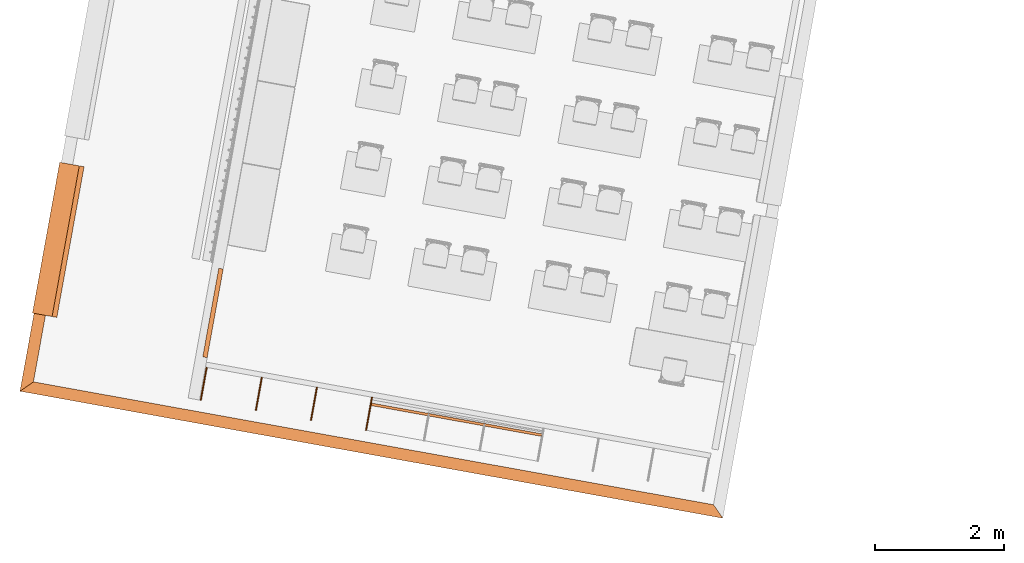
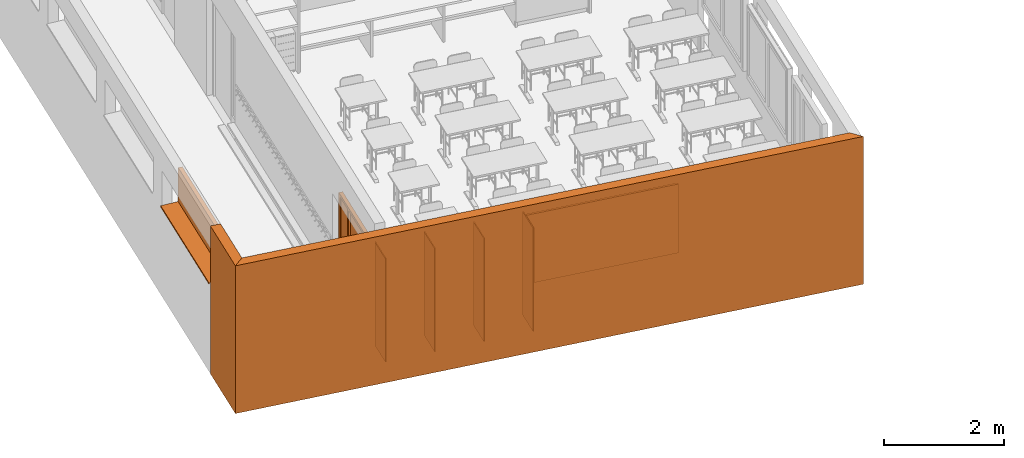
# One storey, part 21 of 79: 9 proxies.
"""IFC2X3 building model written with IfcOpenShell, lengths in metres."""

from ifc_helpers import new_model, entity, si_unit, converted_unit, derived_unit, money_unit, direction, frame, origin_with_axes, place, context, subcontext, project, spatial, polyline, outline, extrude, open_shell, faceted_brep, surface_model, source, transform, mapped, material, type_object, element, save


model = new_model("IFC2X3")

# Units and contexts
model_context = context("Model", 3, precision=1e-05, world=origin_with_axes(), true_north=direction((0.0, 1.0)))
body_context = subcontext(model_context, "Body", "Model", "MODEL_VIEW")
ifc_project = project(units=[si_unit("LENGTHUNIT", "METRE"), si_unit("AREAUNIT", "SQUARE_METRE"), si_unit("VOLUMEUNIT", "CUBIC_METRE"), converted_unit("PLANEANGLEUNIT", "DEGREE", entity("IfcPlaneAngleMeasure", 0.0174532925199), si_unit("PLANEANGLEUNIT", "RADIAN"), dimensions=[0, 0, 0, 0, 0, 0, 0]), money_unit("CHF"), converted_unit("TIMEUNIT", "Year", entity("IfcTimeMeasure", 31556926.0), si_unit("TIMEUNIT", "SECOND"), dimensions=[0, 0, 1, 0, 0, 0, 0]), si_unit("MASSUNIT", "GRAM", prefix="KILO"), si_unit("THERMODYNAMICTEMPERATUREUNIT", "DEGREE_CELSIUS"), si_unit("LUMINOUSINTENSITYUNIT", "LUMEN"), si_unit("ENERGYUNIT", "JOULE", prefix="MEGA"), derived_unit("THERMALCONDUCTANCEUNIT", [(si_unit("POWERUNIT", "WATT"), 1), (si_unit("LENGTHUNIT", "METRE"), -1), (si_unit("THERMODYNAMICTEMPERATUREUNIT", "KELVIN"), -1)]), derived_unit("SPECIFICHEATCAPACITYUNIT", [(si_unit("ENERGYUNIT", "JOULE"), 1), (si_unit("MASSUNIT", "GRAM", prefix="KILO"), -1), (si_unit("THERMODYNAMICTEMPERATUREUNIT", "KELVIN"), -1)]), derived_unit("MASSDENSITYUNIT", [(si_unit("MASSUNIT", "GRAM", prefix="KILO"), 1), (si_unit("VOLUMEUNIT", "CUBIC_METRE"), -1)])], contexts=[model_context])

# Site, building, storey
site_placement = place(None, frame((0.0, 0.0, 0.0), z_axis=(0.0, 0.0, 1.0), x_axis=(-0.177771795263, -0.984071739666, 0.0)))
site = spatial("IfcSite", under=ifc_project, at=site_placement, Name="Site", CompositionType="ELEMENT")
building_placement = place(site_placement, origin_with_axes())
building = spatial("IfcBuilding", under=site, at=building_placement, Name="Bâtiment", CompositionType="ELEMENT")
storey_placement = place(building_placement, origin_with_axes())
storey = spatial("IfcBuildingStorey", under=building, at=storey_placement, Name="RDC", CompositionType="ELEMENT", Elevation=0.0)

# Proxies
ifc_material_1 = material(Name="_BA banché RAL9007")
building_element_proxy_type_1 = type_object("IfcBuildingElementProxyType", Name="_M ext 18 +18 gris 360", PredefinedType="NOTDEFINED")
proxy_1_placement = place(storey_placement, frame((165.029841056, -159.217107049, -0.15), z_axis=(0.0, 0.0, 1.0), x_axis=(0.0, 1.0, 0.0)))
element("IfcBuildingElementProxy", 1, at=proxy_1_placement, inside=storey, type_object=building_element_proxy_type_1, material=ifc_material_1, Name="M ext-Sud", context=body_context, shape_type="SweptSolid", body=[
    extrude(outline(polyline([(0.0, 0.0), (11.0999569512, 0.0), (10.9199569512, 0.18), (0.18, 0.18), (0.0, 0.0)])), origin_with_axes(), (0.0, 0.0, 1.0), 3.0),
])
ifc_material_2 = material(Name="_panneau mélaminé")
building_element_proxy_type_2 = type_object("IfcBuildingElementProxyType", Name="_panneau mélaminé 40", PredefinedType="NOTDEFINED")
proxy_2_placement = place(storey_placement, frame((164.23984107, -151.107651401, 0.7), z_axis=(0.0, 0.0, 1.0), x_axis=(0.0, -1.0, 0.0)))
element("IfcBuildingElementProxy", 2, at=proxy_2_placement, inside=storey, type_object=building_element_proxy_type_2, material=ifc_material_2, Name="tableau-classe", context=body_context, shape_type="SweptSolid", body=[
    extrude(outline(polyline([(0.0095, 0.0), (2.6995, 0.0), (2.6995, 0.04), (0.0095, 0.04), (0.0095, 0.0)])), origin_with_axes(), (0.0, 0.0, 1.0), 1.4),
])
building_element_proxy_type_3 = type_object("IfcBuildingElementProxyType", Name="_panneau mélaminé 19", PredefinedType="NOTDEFINED")
for number, where, z_axis, x_axis, name in (
    (3, (164.669841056, -155.556651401, 0.0), (0.0, 0.0, 1.0), (-1.0, 0.0, 0.0), "cloison pl-classe"),
    (4, (164.669841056, -154.686651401, 0.0), (0.0, 0.0, 1.0), (-1.0, 0.0, 0.0), "cloison pl-classe"),
):
    element("IfcBuildingElementProxy", number, at=place(storey_placement, frame(where, z_axis=z_axis, x_axis=x_axis)), inside=storey, type_object=building_element_proxy_type_3, material=ifc_material_2, Name=name, context=body_context, shape_type="SweptSolid", body=[
        extrude(outline(polyline([(0.0, -0.0095), (0.519999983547, -0.0095), (0.519999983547, 0.0095), (0.0, 0.0095), (0.0, -0.0095)])), origin_with_axes(), (0.0, 0.0, 1.0), 2.1),
    ])
proxy_3_placement = place(storey_placement, frame((164.669841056, -153.816651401, 0.0), z_axis=(0.0, 0.0, 1.0), x_axis=(-1.0, 0.0, 0.0)))
element("IfcBuildingElementProxy", 5, at=proxy_3_placement, inside=storey, type_object=building_element_proxy_type_3, material=ifc_material_2, Name="cloison pl-classe", context=body_context, shape_type="SweptSolid", body=[
    extrude(outline(polyline([(0.0, -0.0095), (0.519999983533, -0.0095), (0.519999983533, 0.0095), (0.0, 0.0095), (0.0, -0.0095)])), origin_with_axes(), (0.0, 0.0, 1.0), 2.1),
])
proxy_4_placement = place(storey_placement, frame((164.669841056, -156.418137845, 0.0), z_axis=(0.0, 0.0, 1.0), x_axis=(-1.0, 0.0, 0.0)))
element("IfcBuildingElementProxy", 6, at=proxy_4_placement, inside=storey, type_object=building_element_proxy_type_3, material=ifc_material_2, Name="cloison pl-classe", context=body_context, shape_type="SweptSolid", body=[
    extrude(outline(polyline([(0.0, 0.0), (0.519999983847, 0.0), (0.519999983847, 0.019), (0.0, 0.019), (0.0, 0.0)])), origin_with_axes(), (0.0, 0.0, 1.0), 2.1),
])
building_element_proxy_type_4 = type_object("IfcBuildingElementProxyType", Name="_M ext 18 +18 360", PredefinedType="NOTDEFINED")
proxy_5_placement = place(storey_placement, frame((165.029841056, -159.217107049, -0.15), z_axis=(0.0, 0.0, 1.0), x_axis=(-1.0, 0.0, 0.0)))
element("IfcBuildingElementProxy", 7, at=proxy_5_placement, inside=storey, type_object=building_element_proxy_type_4, material=ifc_material_1, Name="M ext-Ouest", context=body_context, shape_type="SweptSolid", body=[
    extrude(outline(polyline([(0.18, -0.18), (1.22999998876, -0.18), (1.22999998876, 0.0), (0.0, 0.0), (0.18, -0.18)])), origin_with_axes(), (0.0, 0.0, 1.0), 3.0),
])
ifc_material_3 = material(Name="Matériau de construction IFC")
building_element_proxy_type_5 = type_object("IfcBuildingElementProxyType", Name="Porte avec tierce vitrée côté 2 21", PredefinedType="NOTDEFINED")
shared_shape_1 = source(origin_with_axes(), body_context, "Body", "SurfaceModel", [
    faceted_brep([(0.0, 0.179999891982, 0.0), (0.05, 0.179999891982, 0.0), (0.05, 0.109999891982, 0.0), (0.0, 0.109999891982, 0.0), (0.0, 0.179999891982, 2.05), (0.05, 0.179999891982, 2.05), (0.05, 0.179999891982, 0.2), (0.05, 0.109999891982, 0.2), (0.05, 0.109999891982, 2.05), (0.0, 0.109999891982, 2.05)], [[[0, 1, 2, 3]], [[0, 4, 5, 6, 1]], [[1, 6, 7, 2]], [[3, 2, 7, 8, 9]], [[4, 0, 3, 9]], [[5, 4, 9, 8]], [[6, 5, 8, 7]]]),
    faceted_brep([(0.49, 0.139999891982, 0.0), (0.49, 0.139999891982, 2.05), (0.49, 0.109999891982, 2.05), (0.49, 0.109999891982, 0.0), (0.47, 0.139999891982, 2.05), (0.47, 0.139999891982, 0.0), (0.47, 0.179999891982, 2.05), (0.44, 0.179999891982, 2.05), (0.44, 0.109999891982, 2.05), (0.44, 0.109999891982, 0.0), (0.44, 0.109999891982, 0.2), (0.44, 0.179999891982, 0.0), (0.47, 0.179999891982, 0.0), (0.44, 0.179999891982, 0.2)], [[[0, 1, 2, 3]], [[4, 1, 0, 5]], [[4, 6, 7, 8, 2, 1]], [[9, 3, 2, 8, 10]], [[5, 0, 3, 9, 11, 12]], [[6, 4, 5, 12]], [[6, 12, 11, 13, 7]], [[13, 10, 8, 7]], [[11, 9, 10, 13]]]),
    faceted_brep([(0.05, 0.179999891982, 0.2), (0.05, 0.179999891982, 0.0), (0.05, 0.109999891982, 0.0), (0.05, 0.109999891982, 0.2), (0.44, 0.179999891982, 0.2), (0.44, 0.179999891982, 0.0), (0.44, 0.109999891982, 0.0), (0.44, 0.109999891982, 0.2)], [[[0, 1, 2, 3]], [[0, 4, 5, 1]], [[1, 5, 6, 2]], [[3, 2, 6, 7]], [[4, 0, 3, 7]], [[5, 4, 7, 6]]]),
    faceted_brep([(1.37, 0.139999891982, 2.05), (1.35, 0.139999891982, 2.05), (1.35, 0.109999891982, 2.05), (1.4, 0.109999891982, 2.05), (1.4, 0.179999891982, 2.05), (1.37, 0.179999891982, 2.05), (1.37, 0.139999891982, 0.0), (1.35, 0.139999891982, 0.0), (1.35, 0.109999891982, 0.0), (1.4, 0.109999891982, 0.0), (1.4, 0.179999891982, 0.0), (1.37, 0.179999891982, 0.0)], [[[0, 1, 2, 3, 4, 5]], [[1, 0, 6, 7]], [[1, 7, 8, 2]], [[3, 2, 8, 9]], [[4, 3, 9, 10]], [[11, 5, 4, 10]], [[0, 5, 11, 6]], [[6, 11, 10, 9, 8, 7]]]),
    faceted_brep([(0.47, 0.179999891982, 2.07), (0.47, 0.179999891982, 2.05), (0.44, 0.179999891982, 2.05), (0.05, 0.179999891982, 2.05), (0.0, 0.179999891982, 2.05), (0.0, 0.179999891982, 2.1), (1.4, 0.179999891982, 2.1), (1.4, 0.179999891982, 2.05), (1.37, 0.179999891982, 2.05), (1.37, 0.179999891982, 2.07), (0.47, 0.139999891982, 2.07), (0.47, 0.139999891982, 2.05), (1.35, 0.139999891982, 2.05), (1.35, 0.109999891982, 2.05), (0.49, 0.109999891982, 2.05), (0.44, 0.109999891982, 2.05), (0.05, 0.109999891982, 2.05), (0.0, 0.109999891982, 2.05), (0.0, 0.109999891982, 2.1), (1.4, 0.109999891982, 2.1), (1.4, 0.109999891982, 2.05), (1.37, 0.139999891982, 2.05), (1.37, 0.139999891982, 2.07)], [[[0, 1, 2, 3, 4, 5, 6, 7, 8, 9]], [[1, 0, 10, 11]], [[11, 12, 13, 14, 15, 2, 1]], [[2, 15, 16, 3]], [[3, 16, 17, 4]], [[4, 17, 18, 5]], [[5, 18, 19, 6]], [[6, 19, 20, 7]], [[21, 8, 7, 20, 13, 12]], [[9, 8, 21, 22]], [[0, 9, 22, 10]], [[21, 12, 11, 10, 22]], [[13, 20, 19, 18, 17, 16, 15, 14]]]),
    faceted_brep([(1.37, 0.179999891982, 0.0), (1.37, 0.139999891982, 0.0), (0.47, 0.139999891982, 0.0), (0.47, 0.179999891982, 0.0), (1.37, 0.179999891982, 2.07), (1.37, 0.139999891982, 2.07), (0.47, 0.139999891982, 2.07), (0.47, 0.179999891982, 2.07)], [[[0, 1, 2, 3]], [[4, 5, 1, 0]], [[1, 5, 6, 2]], [[3, 2, 6, 7]], [[0, 3, 7, 4]], [[7, 6, 5, 4]]]),
    surface_model("IfcShellBasedSurfaceModel", [(0.05, 0.144999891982, 0.2), (0.05, 0.144999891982, 2.05), (0.44, 0.144999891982, 2.05), (0.44, 0.144999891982, 0.2)], [open_shell([[[0, 1, 2, 3]]])]),
    surface_model("IfcShellBasedSurfaceModel", [(0.05, 0.134999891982, 0.2), (0.44, 0.134999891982, 0.2), (0.44, 0.134999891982, 2.05), (0.05, 0.134999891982, 2.05)], [open_shell([[[0, 1, 2, 3]]])]),
])
proxy_6_placement = place(storey_placement, frame((162.599841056, -156.627150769, 0.0), z_axis=(0.0, 0.0, 1.0), x_axis=(1.0, -6.24383615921e-08, 0.0)))
element("IfcBuildingElementProxy", 8, at=proxy_6_placement, inside=storey, type_object=building_element_proxy_type_5, material=ifc_material_3, Name="10", context=body_context, shape_type="MappedRepresentation", body=[
    mapped(shared_shape_1, transform((0.0, 0.0, 0.0))),
])
building_element_proxy_type_6 = type_object("IfcBuildingElementProxyType", Name="Fenêtre variable 21", PredefinedType="NOTDEFINED")
shared_shape_2 = source(origin_with_axes(), body_context, "Body", "SurfaceModel", [
    surface_model("IfcShellBasedSurfaceModel", [(0.0, 0.284, 0.02), (0.0, 0.284, 0.01), (2.38, 0.284, 0.01), (2.38, 0.284, 0.02), (0.0, -0.025, -0.00087719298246), (2.38, -0.025, -0.00087719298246), (0.0, -0.025, -0.0308771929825), (2.38, -0.025, -0.0308771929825), (0.0, -0.0125, -0.0183771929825), (2.38, -0.0125, -0.0183771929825)], [open_shell([[[0, 1, 2, 3]], [[1, 4, 5, 2]], [[4, 6, 7, 5]], [[6, 8, 9, 7]]])]),
    faceted_brep([(0.075, 0.285, 0.625), (0.075, 0.36, 0.625), (0.0, 0.36, 0.625), (0.0, 0.285, 0.625), (0.075, 0.285, 0.075), (0.075, 0.36, 0.075), (0.0, 0.36, 0.075), (0.0, 0.285, 0.075)], [[[0, 1, 2, 3]], [[4, 5, 1, 0]], [[1, 5, 6, 2]], [[3, 2, 6, 7]], [[0, 3, 7, 4]], [[7, 6, 5, 4]]]),
    faceted_brep([(2.305, 0.285, 0.075), (2.305, 0.36, 0.075), (2.38, 0.36, 0.075), (2.38, 0.285, 0.075), (2.305, 0.285, 0.625), (2.305, 0.36, 0.625), (2.38, 0.36, 0.625), (2.38, 0.285, 0.625)], [[[0, 1, 2, 3]], [[4, 5, 1, 0]], [[1, 5, 6, 2]], [[3, 2, 6, 7]], [[0, 3, 7, 4]], [[7, 6, 5, 4]]]),
    faceted_brep([(0.075, 0.285, 0.075), (0.075, 0.36, 0.075), (0.0, 0.36, 0.075), (0.0, 0.285, 0.075), (2.305, 0.285, 0.075), (2.305, 0.36, 0.075), (2.38, 0.36, 0.075), (2.38, 0.36, 0.0), (0.0, 0.36, 0.0), (0.0, 0.285, 0.0), (2.38, 0.285, 0.0), (2.38, 0.285, 0.075)], [[[0, 1, 2, 3]], [[4, 5, 1, 0]], [[1, 5, 6, 7, 8, 2]], [[3, 2, 8, 9]], [[0, 3, 9, 10, 11, 4]], [[11, 6, 5, 4]], [[10, 7, 6, 11]], [[9, 8, 7, 10]]]),
    faceted_brep([(2.305, 0.285, 0.625), (2.305, 0.36, 0.625), (2.38, 0.36, 0.625), (2.38, 0.285, 0.625), (0.075, 0.285, 0.625), (0.075, 0.36, 0.625), (0.0, 0.36, 0.625), (0.0, 0.36, 0.7), (2.38, 0.36, 0.7), (2.38, 0.285, 0.7), (0.0, 0.285, 0.7), (0.0, 0.285, 0.625)], [[[0, 1, 2, 3]], [[4, 5, 1, 0]], [[1, 5, 6, 7, 8, 2]], [[3, 2, 8, 9]], [[0, 3, 9, 10, 11, 4]], [[11, 6, 5, 4]], [[10, 7, 6, 11]], [[9, 8, 7, 10]]]),
    surface_model("IfcShellBasedSurfaceModel", [(0.075, 0.285, 0.075), (2.305, 0.285, 0.075), (2.305, 0.285, 0.625), (0.075, 0.285, 0.625)], [open_shell([[[0, 1, 2, 3]]])]),
    surface_model("IfcShellBasedSurfaceModel", [(0.075, 0.305, 0.075), (0.075, 0.305, 0.625), (2.305, 0.305, 0.625), (2.305, 0.305, 0.075)], [open_shell([[[0, 1, 2, 3]]])]),
])
proxy_7_placement = place(storey_placement, frame((161.419841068, -159.217107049, 1.7), z_axis=(0.0, 0.0, 1.0), x_axis=(1.0, 0.0, 0.0)))
element("IfcBuildingElementProxy", 9, at=proxy_7_placement, inside=storey, type_object=building_element_proxy_type_6, material=ifc_material_3, Name="Fen couloir", context=body_context, shape_type="MappedRepresentation", body=[
    mapped(shared_shape_2, transform((0.0, 0.0, 0.0))),
])

save(model, "model.ifc")
